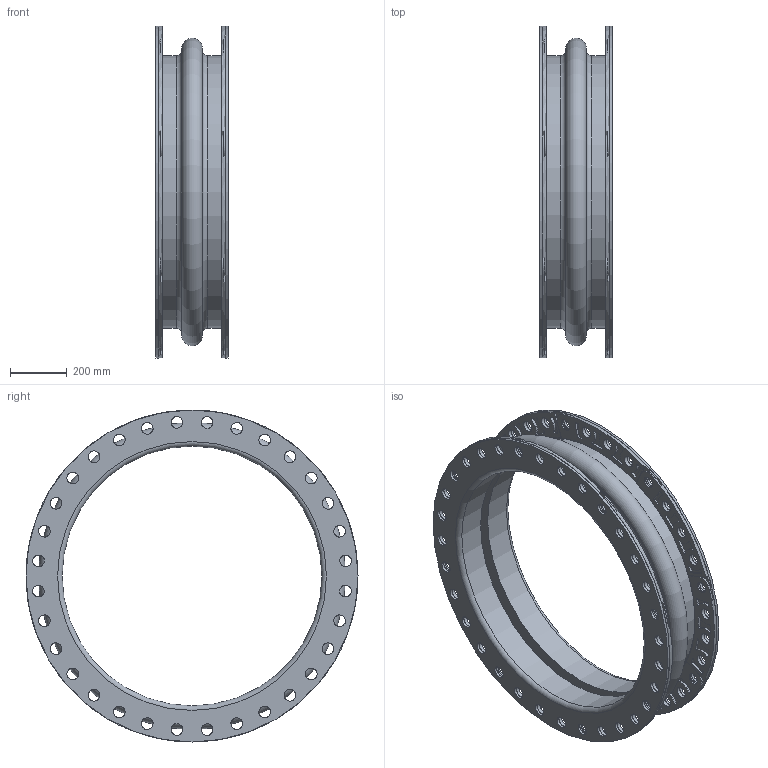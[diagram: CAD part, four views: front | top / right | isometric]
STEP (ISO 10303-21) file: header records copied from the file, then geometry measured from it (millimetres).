
FILE_DESCRIPTION(/* description */ (''),/* implementation_level */ '2;1');
FILE_NAME(/* name */ 'C:\001_Work\Designs\Mercer2014\MQInventor2014\RajR\500 Style\501\New folder\501 36IDx10FF.stp',/* time_stamp */ '2016-03-26T14:44:01-04:00',/* author */ ('rramoutar'),/* organization */ ('Mason Industries Inc.'),/* preprocessor_version */ 'ST-DEVELOPER v15.6',/* originating_system */ 'Autodesk Inventor 2015',/* authorisation */ '');
FILE_SCHEMA (('CONFIG_CONTROL_DESIGN'));
Length unit declared in the file: inch
Products named in the file (1): 501 36IDx10FF
Bounding box: 254 x 1168.4 x 1168.4 mm (x, y, z)
Volume: 35639337.8 mm3; surface area: 5249605 mm2
Topology: 17 solids, 17 shells, 998 faces, 2696 edges, 1798 vertices
Faces by surface type: cylinder 726, plane 228, torus 40, cone 4
Full cylindrical faces by diameter (mm): 41.275 x144, 914.4 x2, 958.85 x2, 1168.4 x2
Entity records: 33566 total; most frequent: DIRECTION 6074, CARTESIAN_POINT 6035, ORIENTED_EDGE 5036, AXIS2_PLACEMENT_3D 2589, EDGE_CURVE 2518, VERTEX_POINT 1782, CIRCLE 1590, EDGE_LOOP 1516
